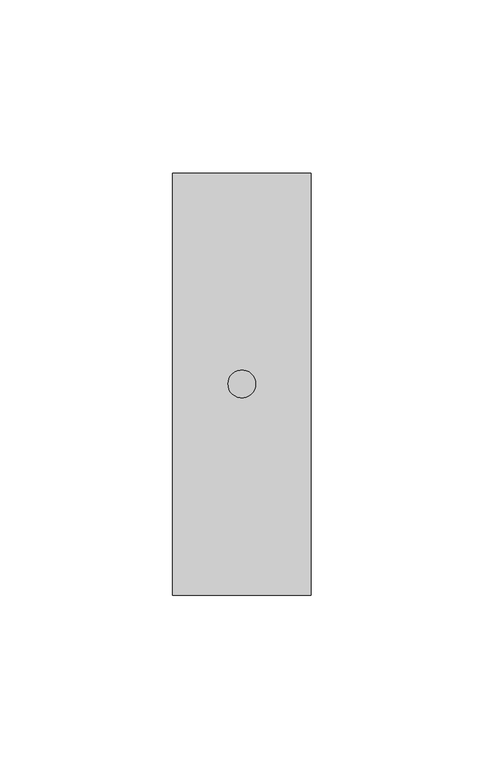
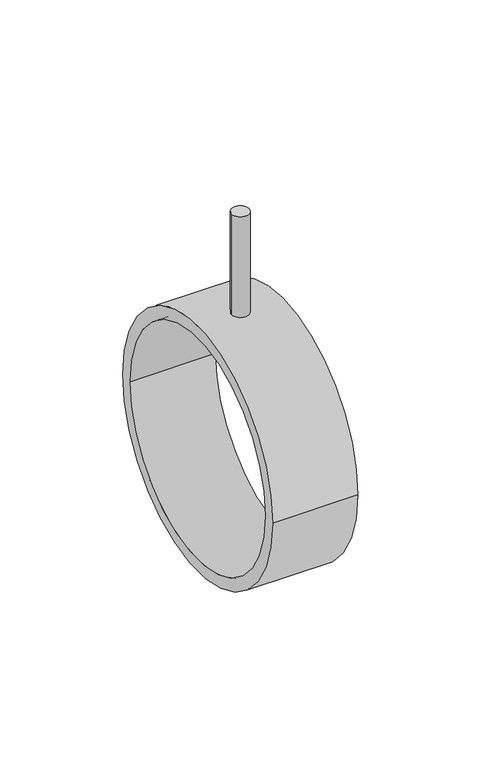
"""IFC4 building model written with IfcOpenShell, lengths in millimetres: valve geometry, MASTER 3 PLUS Bifix : MASTER 3 PLUS Bifix."""

from ifc_helpers import new_model, si_unit, point, frame, frame_2d, origin, origin_2d, place, context, project, spatial, circle_curve, trimmed, segment, composite_curve, outline, extrude, source, transform, mapped, element, save


def valve_3ffecba5(model_context):
    return source(origin(), model_context, "Body", "SweptSolid", [
        extrude(outline(composite_curve([segment(trimmed(circle_curve(frame_2d((20.0, 0.0)), 4.0), [point((16.0, 0.0))], [point((24.0, 0.0))], False, "CARTESIAN"), True, "CONTINUOUS"), segment(trimmed(circle_curve(frame_2d((20.0, 0.0)), 4.0), [point((24.0, 0.0))], [point((16.0, 0.0))], False, "CARTESIAN"), True, "CONTINUOUS")], self_intersect=False)), frame((0.0, 0.0, 61.0), z_axis=(0.0, 0.0, 1.0), x_axis=(1.0, 0.0, 0.0)), (0.0, 0.0, 1.0), 50.0),
        extrude(outline(composite_curve([segment(trimmed(circle_curve(origin_2d(), 61.0), [point((-61.0, 0.0))], [point((61.0, 0.0))], False, "CARTESIAN"), True, "CONTINUOUS"), segment(trimmed(circle_curve(origin_2d(), 61.0), [point((61.0, 0.0))], [point((-61.0, 0.0))], False, "CARTESIAN"), True, "CONTINUOUS")], self_intersect=False), holes=[composite_curve([segment(trimmed(circle_curve(origin_2d(), 55.0), [point((-55.0, 0.0))], [point((55.0, 0.0))], True, "CARTESIAN"), True, "CONTINUOUS"), segment(trimmed(circle_curve(origin_2d(), 55.0), [point((55.0, 0.0))], [point((-55.0, 0.0))], True, "CARTESIAN"), True, "CONTINUOUS")], self_intersect=False)]), frame((0.0, 0.0, 0.0), z_axis=(1.0, 0.0, 0.0), x_axis=(0.0, 1.0, 0.0)), (0.0, 0.0, 1.0), 40.0),
    ])


if __name__ == "__main__":
    model = new_model("IFC4")
    model_context = context("Model", 3, world=origin())
    ifc_project = project(units=[si_unit("LENGTHUNIT", "METRE", prefix="MILLI")], contexts=[model_context])
    site = spatial("IfcSite", under=ifc_project)
    building = spatial("IfcBuilding", under=site)
    placement = place(None, origin())
    valve_shape = valve_3ffecba5(model_context)
    element("IfcValve", 1, ObjectType="MASTER 3 PLUS Bifix : MASTER 3 PLUS Bifix", at=placement, inside=building, context=model_context, shape_type="MappedRepresentation", body=[
        mapped(valve_shape, transform((0.0, 0.0, 0.0), x_axis=(1.0, 0.0, 0.0), y_axis=(0.0, 1.0, 0.0), z_axis=(0.0, 0.0, 1.0))),
    ])
    save(model, "model.ifc")
